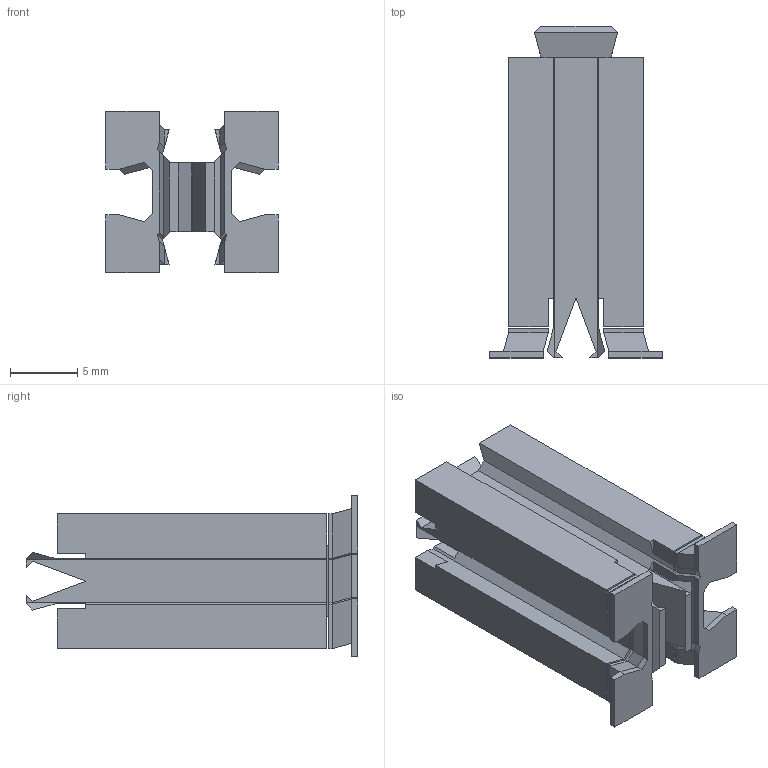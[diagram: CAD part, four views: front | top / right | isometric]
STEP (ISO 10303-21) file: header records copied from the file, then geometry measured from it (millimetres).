
FILE_DESCRIPTION(/* description */ (''),/* implementation_level */ '2;1');
FILE_NAME(/* name */ 'C:/Users/priba/Documents/Temp/Brick1x1x2mm90Cross.step',/* time_stamp */ '2019-11-01T23:13:48+01:00',/* author */ (''),/* organization */ (''),/* preprocessor_version */ 'ST-DEVELOPER v18',/* originating_system */ 'Autodesk Translation Framework v8.9.1.1155',/* authorisation */ '');
FILE_SCHEMA (('AUTOMOTIVE_DESIGN { 1 0 10303 214 3 1 1 }'));
Length unit declared in the file: millimetre
Products named in the file (1): Brick1x1x2mm90Cross
Bounding box: 12.77 x 24.61 x 12 mm (x, y, z)
Volume: 1310.4 mm3; surface area: 1915.2 mm2
Topology: 3 solids, 3 shells, 262 faces, 704 edges, 452 vertices
Faces by surface type: plane 262
Entity records: 7972 total; most frequent: CARTESIAN_POINT 1419, ORIENTED_EDGE 1408, DIRECTION 1230, LINE 704, VECTOR 704, EDGE_CURVE 704, VERTEX_POINT 452, EDGE_LOOP 266
